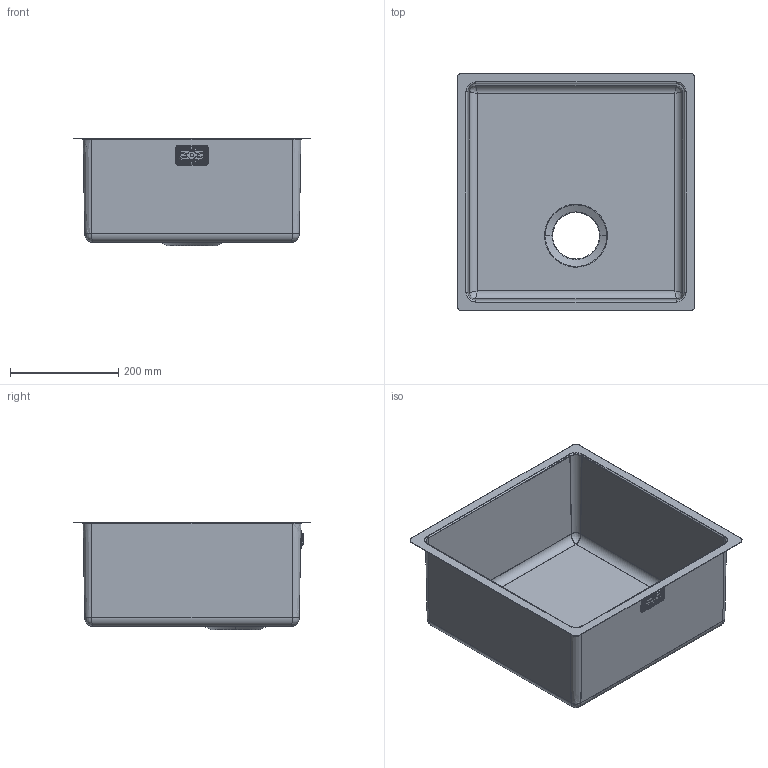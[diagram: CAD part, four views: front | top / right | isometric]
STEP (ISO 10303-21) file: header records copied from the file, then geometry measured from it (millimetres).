
FILE_DESCRIPTION(('CATIA V5 STEP Exchange'),'2;1');
FILE_NAME('C:\Users\domenico.natale\Desktop\2427534.stp','2025-06-10T12:44:50+00:00',('none'),('none'),'CATIA Version 5-6 Release 2014 SP7','CATIA V5 STEP AP203','none');
FILE_SCHEMA(('CONFIG_CONTROL_DESIGN'));
Length unit declared in the file: millimetre
Products named in the file (1): 2427534
Bounding box: 440 x 440 x 199.5 mm (x, y, z)
Volume: 474342.5 mm3; surface area: 951079.5 mm2
Topology: 3 solids, 3 shells, 256 faces, 626 edges, 350 vertices
Faces by surface type: cylinder 104, plane 74, bspline 40, sphere 20, torus 18
Entity records: 12974 total; most frequent: CARTESIAN_POINT 7644, ORIENTED_EDGE 1204, DIRECTION 844, EDGE_CURVE 602, AXIS2_PLACEMENT_3D 362, VERTEX_POINT 350, VECTOR 285, LINE 285
